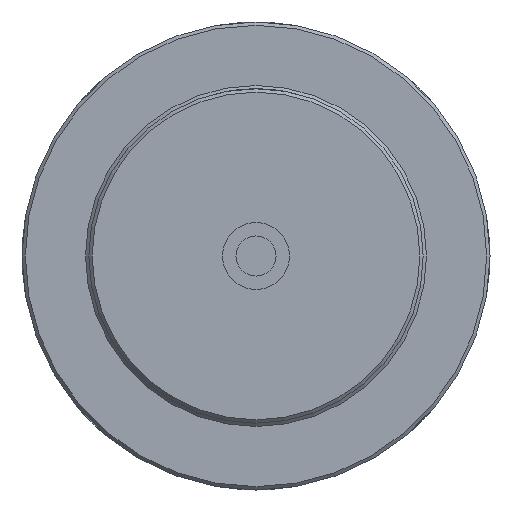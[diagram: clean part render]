
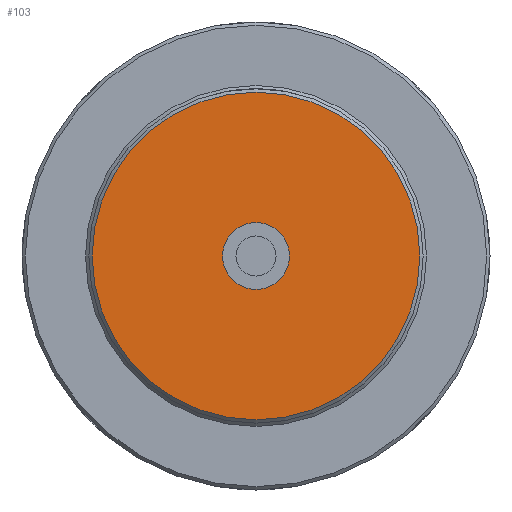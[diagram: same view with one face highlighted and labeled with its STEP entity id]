
A CAD part, left-side view. The second image highlights one B-rep face of the part: STEP entity #103.
In plain terms, the highlighted planar face has unit normal (-1, 0, 0).
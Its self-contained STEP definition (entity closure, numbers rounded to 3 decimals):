
#103 = ADVANCED_FACE( '', ( #212, #213 ), #214, .T. );
#212 = FACE_OUTER_BOUND( '', #354, .T. );
#213 = FACE_BOUND( '', #355, .T. );
#214 = PLANE( '', #356 );
#354 = EDGE_LOOP( '', ( #552 ) );
#355 = EDGE_LOOP( '', ( #553 ) );
#356 = AXIS2_PLACEMENT_3D( '', #554, #555, #556 );
#552 = ORIENTED_EDGE( '', *, *, #676, .T. );
#553 = ORIENTED_EDGE( '', *, *, #674, .F. );
#554 = CARTESIAN_POINT( '', ( 0., 0., 10. ) );
#555 = DIRECTION( '', ( -1., 0., 0. ) );
#556 = DIRECTION( '', ( 0., 0., 1. ) );
#674 = EDGE_CURVE( '', #748, #748, #749, .T. );
#676 = EDGE_CURVE( '', #752, #752, #753, .T. );
#748 = VERTEX_POINT( '', #1356 );
#749 = CIRCLE( '', #1357, 10. );
#752 = VERTEX_POINT( '', #1360 );
#753 = CIRCLE( '', #1361, 49. );
#1356 = CARTESIAN_POINT( '', ( 0., 0., 10. ) );
#1357 = AXIS2_PLACEMENT_3D( '', #1543, #1544, #1545 );
#1360 = CARTESIAN_POINT( '', ( 0., 0., 49. ) );
#1361 = AXIS2_PLACEMENT_3D( '', #1549, #1550, #1551 );
#1543 = CARTESIAN_POINT( '', ( 0., 0., 0. ) );
#1544 = DIRECTION( '', ( -1., 0., 0. ) );
#1545 = DIRECTION( '', ( 0., 0., 1. ) );
#1549 = CARTESIAN_POINT( '', ( 0., 0., 0. ) );
#1550 = DIRECTION( '', ( -1., 0., 0. ) );
#1551 = DIRECTION( '', ( 0., 0., 1. ) );
